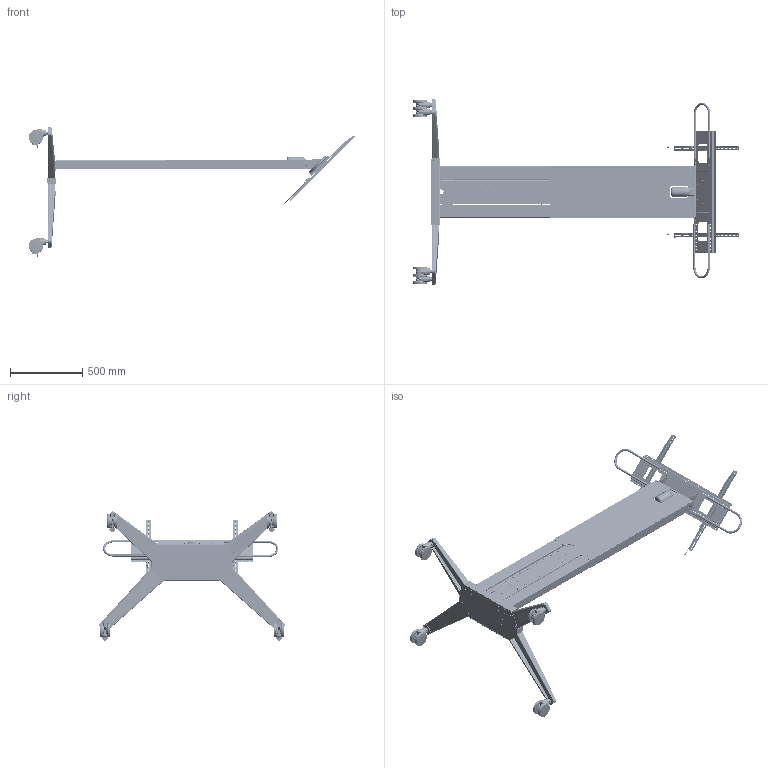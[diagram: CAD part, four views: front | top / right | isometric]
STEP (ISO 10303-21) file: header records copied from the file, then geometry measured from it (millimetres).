
FILE_DESCRIPTION((''),'2;1');
FILE_NAME('F50_FREESTANDING_MAX_ASM_ASM_ASM','2022-02-11T15:35:04',('103247'),('捷昌驱动'),'CREO PARAMETRIC BY PTC INC, 2018100','CREO PARAMETRIC BY PTC INC, 2018100','');
FILE_SCHEMA(('CONFIG_CONTROL_DESIGN'));
Products named in the file (99): RR05-304_TOP_BRACKET_42_4_1; JS36DR-2467_1_1_9_1_1; JS36DR-1576_1_1_3_1_1; RR05-251_LEG_TOP1_ASM_1_ASM_1_A_ASM; JS36DR-0142_1_1_1_1_1; JS36DR-0141_1_1_1_1_1; JCSP-0505_1_1_1_1_1; RR05-251_LEG_TOP2_ASM_1_ASM_1_A_ASM; RR05-251_LEG_TOP3_ASM_1_ASM_1_A_ASM; JS36DR-2366_1_1_5_1_1; JS36DS-0069_1_1_5_1_1; JS36DS-0070_1_1_4_1_1; JC35TS-1850_1_1_2_1_1; JSSY-0115_1_1_1_1_1; JC35TS-1730_1_1_1_1_1; JCSP-0731_1_1_3_1_1; JCSP-0722_1_1_2_1_1; RR05-251_LEG_TOP4_ASM_27_ASM_1__ASM; RR05-251_LEG_TOP5_ASM_12_ASM_1__ASM; RR05-201_FRONT_TOP_COVER_25_3_1; PRT0001; RR05-203_REAR_TOP_COVER_16_7_1; NS1_3_6_ASM_1_ASM_1_1_2_3_ASM_2; NS1_3_6_ASM_1_1_ASM_1_ASM_1_A_1_ASM; 0000210278_ASM_1_ASM_1_ASM_1_1__ASM; 0000210276_ASM_1_ASM_1_ASM_1_1__ASM; JCB35NS1-A_ASM_1_ASM_1_1_ASM_1__ASM; JC35TS-1804_1_1_1_8_1_1; ______17135_1_1_1_1_1_1_1; ______17135_1_2_1_1_1_1_1; ______17135_1_3_1_1_1_1_1; ______17135_1_4_1_1_1_1_1; ______17135_1_5_1_1_1_1_1; ______17135_1_ASM_1_1_ASM_1_ASM_ASM; JC35TS-1807_1_ASM_1_1_ASM_1_ASM_ASM; JC35TS-1806_1_1_1_1_1_1; JC35TS-1805_1_1_1_1_1_1; JC35TF-0137_1_1_1_2_1_1; JCSP-0412_1_1_1_1_1_1; JCSP-0474_1_1_1_1_1_1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
Assembly tree (166 placements, depth 13):
  F50_FREESTANDING_MAX_ASM_ASM_ASM
    F50_FREESTANDING_MAX_ASM_ASM_1_ASM
      F50_FREESTANDING_MAX_ASM_1_ASM__ASM
        RR05-150_MAIN_ASM_ASM_103_ASM_1_ASM
          RR05-250_TOP_ASM_ASM_61_ASM_5_A_ASM
            RR05-251_LEG_TOP5_ASM_12_ASM_1__ASM
              RR05-251_LEG_TOP4_ASM_27_ASM_1__ASM
                RR05-304_TOP_BRACKET_42_4_1
                RR05-251_LEG_TOP2_ASM_1_ASM_1_A_ASM
                  RR05-251_LEG_TOP1_ASM_1_ASM_1_A_ASM
                  JS36DR-0142_1_1_1_1_1  x2
                  JS36DR-0141_1_1_1_1_1  x2
                  JCSP-0505_1_1_1_1_1  x2
                RR05-251_LEG_TOP3_ASM_1_ASM_1_A_ASM
                  RR05-251_LEG_TOP1_ASM_1_ASM_1_A_ASM
                  JCSP-0505_1_1_1_1_1  x2
                  JS36DR-0141_1_1_1_1_1  x2
                  JS36DR-0142_1_1_1_1_1  x2
                JS36DR-2366_1_1_5_1_1
                JS36DS-0069_1_1_5_1_1
                JS36DS-0070_1_1_4_1_1
                JC35TS-1850_1_1_2_1_1
                JSSY-0115_1_1_1_1_1
                JC35TS-1730_1_1_1_1_1
                JCSP-0731_1_1_3_1_1
                JCSP-0722_1_1_2_1_1  x10
            RR05-201_FRONT_TOP_COVER_25_3_1
            PRT0001
            RR05-203_REAR_TOP_COVER_16_7_1
            RR05-300_MONITOR_CHASSIS_ASM_12_ASM
              2_ASM_1_1_ASM_1_ASM_1_ASM_1_ASM
                JC35TS-T215007_ASM_1_ASM_1_1_AS_ASM
                  JCB35NS1-A_ASM_1_ASM_1_1_ASM_1__ASM
                  JC35TS-1804_1_1_1_8_1_1
                  JC35TS-T191184_ASM_1_ASM_1_1_AS_ASM  x2
          RR05-252_LEG_BOT_ASM_65_ASM_3_A_ASM
            RR05-252_LEG_BOT4_ASM_2_ASM_1_A_ASM
              RR05-252_LEG_BOT3_ASM_1_ASM_1_A_ASM
                RR05-252_LEG_BOT2_ASM_1_ASM_1_A_ASM
                  RR05-252_LEG_BOT1_ASM_1_ASM_1_A_ASM
                  JC35PJ-0476_1_1_1_1_1  x2
                JC35TS-0166_1_1_2_1_1
              JS36DR-0304_1_1_1_1_1
              JCSP-0506_1_1_1_1_1  x4
            RR05-253_LEG_BOT4_ASM_1_ASM_1_A_ASM
              RR05-253_LEG_BOT3_ASM_1_ASM_1_A_ASM
                RR05-253_LEG_BOT2_ASM_1_ASM_1_A_ASM
                  RR05-253_LEG_BOT1_ASM_1_ASM_1_A_ASM
                  JC35PJ-0476_1_1_1_1_1  x2
                JC35TS-0166_1_1_2_1_1
              JCSP-0506_1_1_1_1_1  x4
              JS36DR-0304_1_1_1_1_1
            JC35TS-1668_1_1_5_1_1
            RR05-256-2_BRACKET_SCREWS_8_1_1  x6
            RR05-205_REAR_BOTTOM_COVER_26_7
            RR05-202_CONTROLLER_ASM_ASM_7_A_ASM
              RR05-202-1_CONTROLLER_3_1_1
              RR05-256-2_BRACKET_SCREWS_8_1_1  x2
        000_ASM_1_ASM_1_ASM
          RR05-110_BASE_ASM_ASM_ASM_4_ASM_ASM
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Bounding box: 2252.48 x 1280.4 x 892.92 mm (x, y, z)
Volume: 8415208.5 mm3; surface area: 7648263 mm2
Topology: 128 solids, 155 shells, 8983 faces, 25127 edges, 16535 vertices
Faces by surface type: plane 3988, cylinder 3428, bspline 629, cone 435, torus 344, extrusion 115, sphere 44
Entity records: 231549 total; most frequent: CARTESIAN_POINT 96089, ORIENTED_EDGE 28482, DIRECTION 27123, EDGE_CURVE 14279, VERTEX_POINT 9382, AXIS2_PLACEMENT_3D 9321, VECTOR 8481, LINE 8378
